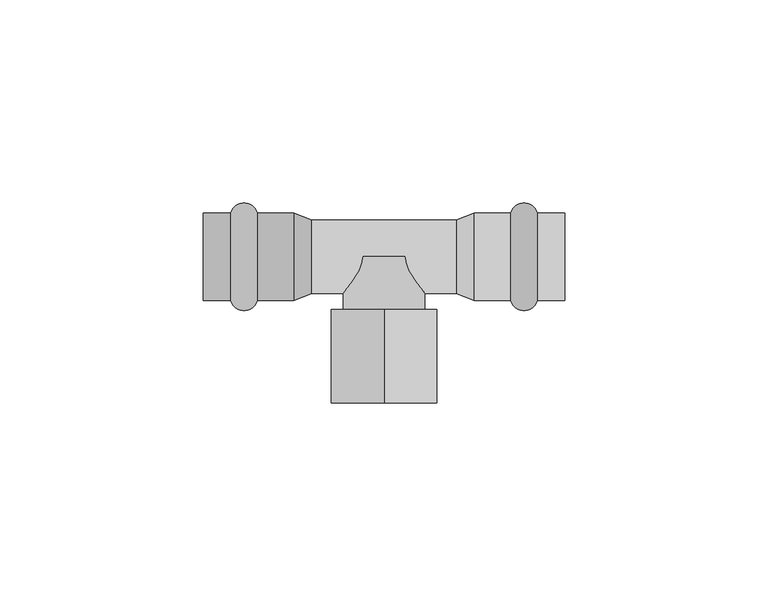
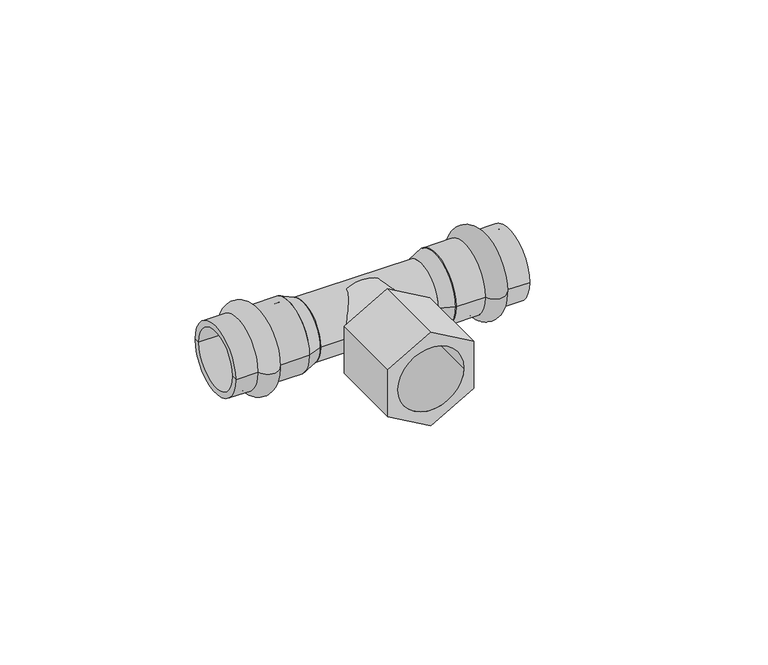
"""IFC4 building model written with IfcOpenShell, lengths in millimetres: pipe fitting geometry, VALTEC_VTi.932.I_Тройник с переходом на внутреннюю резьбу нержавеющая сталь : VTi.932.I."""

from ifc_helpers import new_model, si_unit, point, frame, origin, origin_2d, place, context, project, spatial, polyline, circle_curve, ellipse_curve, trimmed, segment, composite_curve, outline, extrude, source, transform, mapped, element, save
from ifc_brep_helpers import plane_surface, cylinder_surface, revolved_surface, advanced_brep


def pipe_fitting_33527807(model_context):
    return source(origin(), model_context, "Body", "SolidModel", [
        advanced_brep(
        [(37.7287193, 10.75, 0.0), (37.7287193, -10.75, 0.0), (31.1712807, -10.75, 0.0), (31.1712807, 10.75, 0.0), (44.5, 10.75, 0.0), (44.5, -10.75, 0.0), (44.5, 9.0, 0.0), (44.5, -9.0, 0.0), (22.25, 9.0, 0.0), (22.25, -9.0, 0.0), (22.25, 10.75, 0.0), (22.25, -10.75, 0.0)],
        [
            (0, 1, circle_curve(frame((37.7287193, 0.0, 0.0), z_axis=(-1.0, 0.0, 0.0), x_axis=(0.0, -1.0, 0.0)), 10.75)),
            (1, 2, circle_curve(frame((34.45, -9.85, 0.0), z_axis=(0.0, 0.0, -1.0), x_axis=(-1.0, 0.0, 0.0)), 3.4)),
            (2, 3, circle_curve(frame((31.1712807, 0.0, 0.0), z_axis=(1.0, 0.0, 0.0), x_axis=(0.0, -1.0, 0.0)), 10.75)),
            (3, 0, circle_curve(frame((34.45, 9.85, 0.0), z_axis=(0.0, 0.0, -1.0), x_axis=(-1.0, 0.0, 0.0)), 3.4)),
            (1, 0, circle_curve(frame((37.7287193, 0.0, 0.0), z_axis=(-1.0, 0.0, 0.0), x_axis=(0.0, -1.0, 0.0)), 10.75)),
            (3, 2, circle_curve(frame((31.1712807, 0.0, 0.0), z_axis=(1.0, 0.0, 0.0), x_axis=(0.0, -1.0, 0.0)), 10.75)),
            (4, 5, circle_curve(frame((44.5, 0.0, 0.0), z_axis=(-1.0, 0.0, 0.0), x_axis=(0.0, -1.0, 0.0)), 10.75)),
            (5, 1),
            (0, 4),
            (5, 4, circle_curve(frame((44.5, 0.0, 0.0), z_axis=(-1.0, 0.0, 0.0), x_axis=(0.0, -1.0, 0.0)), 10.75)),
            (6, 7, circle_curve(frame((44.5, 0.0, 0.0), z_axis=(-1.0, 0.0, 0.0), x_axis=(0.0, -1.0, 0.0)), 9.0)),
            (7, 5),
            (4, 6),
            (7, 6, circle_curve(frame((44.5, 0.0, 0.0), z_axis=(-1.0, 0.0, 0.0), x_axis=(0.0, -1.0, 0.0)), 9.0)),
            (8, 9, circle_curve(frame((22.25, 0.0, 0.0), z_axis=(-1.0, 0.0, 0.0), x_axis=(0.0, -1.0, 0.0)), 9.0)),
            (9, 7),
            (6, 8),
            (9, 8, circle_curve(frame((22.25, 0.0, 0.0), z_axis=(-1.0, 0.0, 0.0), x_axis=(0.0, -1.0, 0.0)), 9.0)),
            (10, 11, circle_curve(frame((22.25, 0.0, 0.0), z_axis=(-1.0, 0.0, 0.0), x_axis=(0.0, -1.0, 0.0)), 10.75)),
            (11, 9),
            (8, 10),
            (11, 10, circle_curve(frame((22.25, 0.0, 0.0), z_axis=(-1.0, 0.0, 0.0), x_axis=(0.0, -1.0, 0.0)), 10.75)),
            (2, 11),
            (10, 3),
        ],
        [
            revolved_surface(trimmed(ellipse_curve(frame((34.45, -9.85, 0.0), z_axis=(0.0, 0.0, 1.0), x_axis=(-1.0, 0.0, 0.0)), 3.4, 3.4), [point((31.1712807, -10.75, 0.0))], [point((37.7287193, -10.75, 0.0))], True, "CARTESIAN"), (48.0364426, 0.0, 0.0), (1.0, 0.0, 0.0)),
            cylinder_surface(frame((48.0364426, 0.0, 0.0), z_axis=(1.0, 0.0, 0.0), x_axis=(0.0, -1.0, 0.0)), 10.75),
            plane_surface(frame((44.5, 0.0, 0.0), z_axis=(1.0, 0.0, 0.0), x_axis=(0.0, -1.0, 0.0))),
            revolved_surface(polyline([(44.5, -9.0, 0.0), (22.25, -9.0, 0.0)]), (48.0364426, 0.0, 0.0), (1.0, 0.0, 0.0)),
            plane_surface(frame((22.25, 0.0, 0.0), z_axis=(-1.0, 0.0, 0.0), x_axis=(0.0, -1.0, 0.0))),
        ],
        [
            (0, [[1, 2, 3, 4]]),
            (0, [[5, -4, 6, -2]]),
            (1, [[7, 8, -1, 9]]),
            (1, [[10, -9, -5, -8]]),
            (2, [[11, 12, -7, 13]]),
            (2, [[14, -13, -10, -12]]),
            (3, [[15, 16, -11, 17]]),
            (3, [[18, -17, -14, -16]]),
            (4, [[19, 20, -15, 21]]),
            (4, [[22, -21, -18, -20]]),
            (1, [[-3, 23, -19, 24]]),
            (1, [[-6, -24, -22, -23]]),
        ],
    ),
        advanced_brep(
        [(-37.7287193, -10.75, 0.0), (-37.7287193, 10.75, 0.0), (-31.1712807, 10.75, 0.0), (-31.1712807, -10.75, 0.0), (-44.5, -10.75, 0.0), (-44.5, 10.75, 0.0), (-44.5, -9.0, 0.0), (-44.5, 9.0, 0.0), (-22.25, -9.0, 0.0), (-22.25, 9.0, 0.0), (-22.25, -10.75, 0.0), (-22.25, 10.75, 0.0)],
        [
            (0, 1, circle_curve(frame((-37.7287193, 0.0, 0.0), z_axis=(1.0, 0.0, 0.0), x_axis=(0.0, 1.0, 0.0)), 10.75)),
            (1, 2, circle_curve(frame((-34.45, 9.85, 0.0), z_axis=(0.0, 0.0, -1.0), x_axis=(1.0, 0.0, 0.0)), 3.4)),
            (2, 3, circle_curve(frame((-31.1712807, 0.0, 0.0), z_axis=(-1.0, 0.0, 0.0), x_axis=(0.0, 1.0, 0.0)), 10.75)),
            (3, 0, circle_curve(frame((-34.45, -9.85, 0.0), z_axis=(0.0, 0.0, -1.0), x_axis=(1.0, 0.0, 0.0)), 3.4)),
            (1, 0, circle_curve(frame((-37.7287193, 0.0, 0.0), z_axis=(1.0, 0.0, 0.0), x_axis=(0.0, 1.0, 0.0)), 10.75)),
            (3, 2, circle_curve(frame((-31.1712807, 0.0, 0.0), z_axis=(-1.0, 0.0, 0.0), x_axis=(0.0, 1.0, 0.0)), 10.75)),
            (4, 5, circle_curve(frame((-44.5, 0.0, 0.0), z_axis=(1.0, 0.0, 0.0), x_axis=(0.0, 1.0, 0.0)), 10.75)),
            (5, 1),
            (0, 4),
            (5, 4, circle_curve(frame((-44.5, 0.0, 0.0), z_axis=(1.0, 0.0, 0.0), x_axis=(0.0, 1.0, 0.0)), 10.75)),
            (6, 7, circle_curve(frame((-44.5, 0.0, 0.0), z_axis=(1.0, 0.0, 0.0), x_axis=(0.0, 1.0, 0.0)), 9.0)),
            (7, 5),
            (4, 6),
            (7, 6, circle_curve(frame((-44.5, 0.0, 0.0), z_axis=(1.0, 0.0, 0.0), x_axis=(0.0, 1.0, 0.0)), 9.0)),
            (8, 9, circle_curve(frame((-22.25, 0.0, 0.0), z_axis=(1.0, 0.0, 0.0), x_axis=(0.0, 1.0, 0.0)), 9.0)),
            (9, 7),
            (6, 8),
            (9, 8, circle_curve(frame((-22.25, 0.0, 0.0), z_axis=(1.0, 0.0, 0.0), x_axis=(0.0, 1.0, 0.0)), 9.0)),
            (10, 11, circle_curve(frame((-22.25, 0.0, 0.0), z_axis=(1.0, 0.0, 0.0), x_axis=(0.0, 1.0, 0.0)), 10.75)),
            (11, 9),
            (8, 10),
            (11, 10, circle_curve(frame((-22.25, 0.0, 0.0), z_axis=(1.0, 0.0, 0.0), x_axis=(0.0, 1.0, 0.0)), 10.75)),
            (2, 11),
            (10, 3),
        ],
        [
            revolved_surface(trimmed(ellipse_curve(frame((-34.45, 9.85, 0.0), z_axis=(0.0, 0.0, 1.0), x_axis=(1.0, 0.0, 0.0)), 3.4, 3.4), [point((-31.1712807, 10.75, 0.0))], [point((-37.7287193, 10.75, 0.0))], True, "CARTESIAN"), (-48.0364426, 0.0, 0.0), (-1.0, 0.0, 0.0)),
            cylinder_surface(frame((-48.0364426, 0.0, 0.0), z_axis=(-1.0, 0.0, 0.0), x_axis=(0.0, 1.0, 0.0)), 10.75),
            plane_surface(frame((-44.5, 0.0, 0.0), z_axis=(-1.0, 0.0, 0.0), x_axis=(0.0, 1.0, 0.0))),
            revolved_surface(polyline([(-44.5, 9.0, 0.0), (-22.25, 9.0, 0.0)]), (-48.0364426, 0.0, 0.0), (-1.0, 0.0, 0.0)),
            plane_surface(frame((-22.25, 0.0, 0.0), z_axis=(1.0, 0.0, 0.0), x_axis=(0.0, 1.0, 0.0))),
        ],
        [
            (0, [[1, 2, 3, 4]]),
            (0, [[5, -4, 6, -2]]),
            (1, [[7, 8, -1, 9]]),
            (1, [[10, -9, -5, -8]]),
            (2, [[11, 12, -7, 13]]),
            (2, [[14, -13, -10, -12]]),
            (3, [[15, 16, -11, 17]]),
            (3, [[18, -17, -14, -16]]),
            (4, [[19, 20, -15, 21]]),
            (4, [[22, -21, -18, -20]]),
            (1, [[-3, 23, -19, 24]]),
            (1, [[-6, -24, -22, -23]]),
        ],
    ),
        extrude(outline(polyline([(15.011107, 0.0), (7.5055535, -13.0), (-7.5055535, -13.0), (-15.011107, 0.0), (-7.5055535, 13.0), (7.5055535, 13.0), (15.011107, 0.0)]), holes=[composite_curve([segment(trimmed(circle_curve(origin_2d(), 10.0), [point((0.0, -10.0))], [point((0.0, 10.0))], True, "CARTESIAN"), True, "CONTINUOUS"), segment(trimmed(circle_curve(origin_2d(), 10.0), [point((0.0, 10.0))], [point((0.0, -10.0))], True, "CARTESIAN"), True, "CONTINUOUS")], self_intersect=False)]), frame((0.0, -36.0, 0.0), z_axis=(0.0, 1.0, 0.0), x_axis=(0.0, 0.0, 1.0)), (0.0, 0.0, 1.0), 23.0),
        extrude(outline(composite_curve([segment(trimmed(circle_curve(origin_2d(), 10.0), [point((0.0, -10.0))], [point((0.0, 10.0))], False, "CARTESIAN"), True, "CONTINUOUS"), segment(trimmed(circle_curve(origin_2d(), 10.0), [point((0.0, 10.0))], [point((0.0, -10.0))], False, "CARTESIAN"), True, "CONTINUOUS")], self_intersect=False)), frame((0.0, -13.0, 0.0), z_axis=(0.0, 1.0, 0.0), x_axis=(0.0, 0.0, 1.0)), (0.0, 0.0, 1.0), 13.0),
        extrude(outline(composite_curve([segment(trimmed(circle_curve(origin_2d(), 9.0), [point((-9.0, 0.0))], [point((9.0, 0.0))], False, "CARTESIAN"), True, "CONTINUOUS"), segment(trimmed(circle_curve(origin_2d(), 9.0), [point((9.0, 0.0))], [point((-9.0, 0.0))], False, "CARTESIAN"), True, "CONTINUOUS")], self_intersect=False)), frame((-17.8, 0.0, 0.0), z_axis=(1.0, 0.0, 0.0), x_axis=(0.0, 1.0, 0.0)), (0.0, 0.0, 1.0), 35.6),
        advanced_brep(
        [(22.25, -10.75, 0.0), (22.25, 10.75, 0.0), (17.8, -9.0, 0.0), (17.8, 9.0, 0.0)],
        [
            (0, 1, circle_curve(frame((22.25, 0.0, 0.0), z_axis=(1.0, 0.0, 0.0), x_axis=(0.0, -1.0, 0.0)), 10.75)),
            (1, 0, circle_curve(frame((22.25, 0.0, 0.0), z_axis=(1.0, 0.0, 0.0), x_axis=(0.0, 1.0, 0.0)), 10.75)),
            (2, 3, circle_curve(frame((17.8, 0.0, 0.0), z_axis=(-1.0, 0.0, 0.0), x_axis=(0.0, 1.0, 0.0)), 9.0)),
            (3, 2, circle_curve(frame((17.8, 0.0, 0.0), z_axis=(-1.0, 0.0, 0.0), x_axis=(0.0, -1.0, 0.0)), 9.0)),
            (3, 1),
            (0, 2),
        ],
        [
            plane_surface(frame((22.25, 0.0, 0.0), z_axis=(1.0, 0.0, 0.0), x_axis=(0.0, 0.0, 1.0))),
            plane_surface(frame((17.8, 0.0, 0.0), z_axis=(-1.0, 0.0, 0.0), x_axis=(0.0, 0.0, 1.0))),
            revolved_surface(polyline([(17.8, 9.000000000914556, 0.0), (22.25, 10.75, 0.0)]), (-5.0857143, 0.0, 0.0), (1.0, 0.0, 0.0)),
            revolved_surface(polyline([(17.8, -9.000000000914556, 0.0), (22.25, -10.75, 0.0)]), (-5.0857143, 0.0, 0.0), (1.0, 0.0, 0.0)),
        ],
        [
            (0, [[1, 2]]),
            (1, [[3, 4]]),
            (2, [[-4, 5, -1, 6]]),
            (3, [[-3, -6, -2, -5]]),
        ],
    ),
        advanced_brep(
        [(-22.25, -10.75, 0.0), (-22.25, 10.75, 0.0), (-17.8, -9.0, 0.0), (-17.8, 9.0, 0.0)],
        [
            (0, 1, circle_curve(frame((-22.25, 0.0, 0.0), z_axis=(-1.0, 0.0, 0.0), x_axis=(0.0, -1.0, 0.0)), 10.75)),
            (1, 0, circle_curve(frame((-22.25, 0.0, 0.0), z_axis=(-1.0, 0.0, 0.0), x_axis=(0.0, 1.0, 0.0)), 10.75)),
            (2, 3, circle_curve(frame((-17.8, 0.0, 0.0), z_axis=(1.0, 0.0, 0.0), x_axis=(0.0, 1.0, 0.0)), 9.0)),
            (3, 2, circle_curve(frame((-17.8, 0.0, 0.0), z_axis=(1.0, 0.0, 0.0), x_axis=(0.0, -1.0, 0.0)), 9.0)),
            (2, 0),
            (1, 3),
        ],
        [
            plane_surface(frame((-22.25, 0.0, 0.0), z_axis=(-1.0, 0.0, 0.0), x_axis=(0.0, 0.0, -1.0))),
            plane_surface(frame((-17.8, 0.0, 0.0), z_axis=(1.0, 0.0, 0.0), x_axis=(0.0, 0.0, -1.0))),
            revolved_surface(polyline([(-17.8, -9.000000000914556, 0.0), (-22.25, -10.75, 0.0)]), (5.0857143, 0.0, 0.0), (-1.0, 0.0, 0.0)),
            revolved_surface(polyline([(-17.8, 9.000000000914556, 0.0), (-22.25, 10.75, 0.0)]), (5.0857143, 0.0, 0.0), (-1.0, 0.0, 0.0)),
        ],
        [
            (0, [[1, 2]]),
            (1, [[3, 4]]),
            (2, [[-3, 5, -2, 6]]),
            (3, [[-4, -6, -1, -5]]),
        ],
    ),
    ])


if __name__ == "__main__":
    model = new_model("IFC4")
    model_context = context("Model", 3, world=origin())
    ifc_project = project(units=[si_unit("LENGTHUNIT", "METRE", prefix="MILLI")], contexts=[model_context])
    site = spatial("IfcSite", under=ifc_project)
    building = spatial("IfcBuilding", under=site)
    placement = place(None, origin())
    pipe_fitting_shape = pipe_fitting_33527807(model_context)
    element("IfcPipeFitting", 1, ObjectType="VALTEC_VTi.932.I_Тройник с переходом на внутреннюю резьбу нержавеющая сталь : VTi.932.I", at=placement, inside=building, context=model_context, shape_type="MappedRepresentation", body=[
        mapped(pipe_fitting_shape, transform((0.0, 0.0, 0.0), x_axis=(1.0, 0.0, 0.0), y_axis=(0.0, 1.0, 0.0), z_axis=(0.0, 0.0, 1.0))),
    ])
    save(model, "model.ifc")
